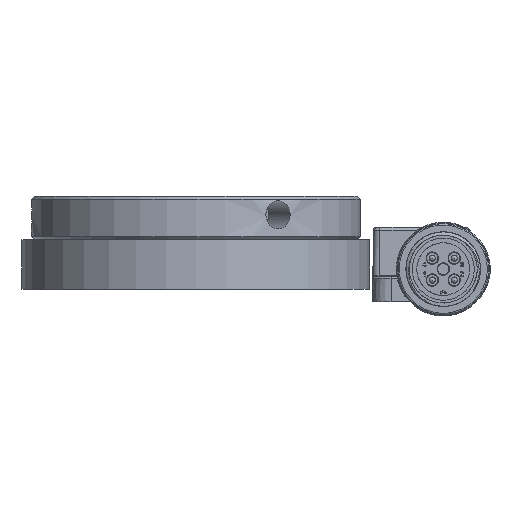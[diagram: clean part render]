
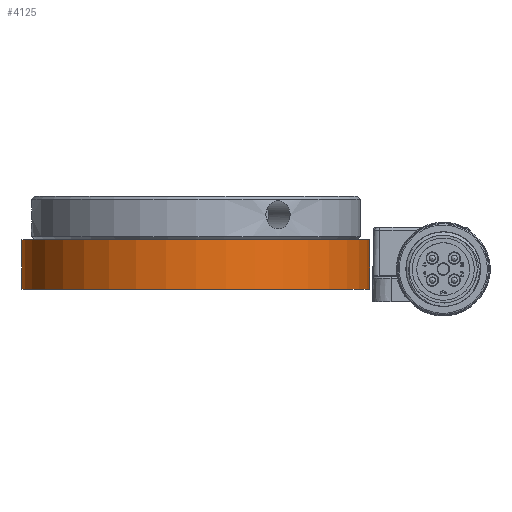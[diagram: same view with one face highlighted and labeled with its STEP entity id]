
A CAD part, left-side view. The second image highlights one B-rep face of the part: STEP entity #4125.
In plain terms, the highlighted cylindrical face has radius 28 mm (diameter 56 mm), a full revolution.
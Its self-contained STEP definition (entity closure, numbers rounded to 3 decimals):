
#231=CYLINDRICAL_SURFACE('',#6056,28.);
#463=CIRCLE('',#6051,28.);
#465=CIRCLE('',#6055,28.);
#2032=ORIENTED_EDGE('',*,*,#2567,.F.);
#2033=ORIENTED_EDGE('',*,*,#2569,.T.);
#2567=EDGE_CURVE('',#2929,#2929,#463,.T.);
#2569=EDGE_CURVE('',#2931,#2931,#465,.T.);
#2929=VERTEX_POINT('',#11947);
#2931=VERTEX_POINT('',#11953);
#3348=EDGE_LOOP('',(#2032));
#3349=EDGE_LOOP('',(#2033));
#3738=FACE_BOUND('',#3348,.T.);
#3739=FACE_BOUND('',#3349,.T.);
#4125=ADVANCED_FACE('',(#3738,#3739),#231,.T.);
#6051=AXIS2_PLACEMENT_3D('',#11946,#7217,#7218);
#6055=AXIS2_PLACEMENT_3D('',#11952,#7225,#7226);
#6056=AXIS2_PLACEMENT_3D('',#11954,#7227,#7228);
#7217=DIRECTION('',(0.,-1.,0.));
#7218=DIRECTION('',(0.,0.,-1.));
#7225=DIRECTION('',(0.,-1.,0.));
#7226=DIRECTION('',(0.,0.,-1.));
#7227=DIRECTION('',(0.,-1.,0.));
#7228=DIRECTION('',(0.,0.,-1.));
#11946=CARTESIAN_POINT('',(0.,-4.,0.));
#11947=CARTESIAN_POINT('',(0.,-4.,-28.));
#11952=CARTESIAN_POINT('',(0.,4.,0.));
#11953=CARTESIAN_POINT('',(0.,4.,-28.));
#11954=CARTESIAN_POINT('',(0.,-15.,0.));
